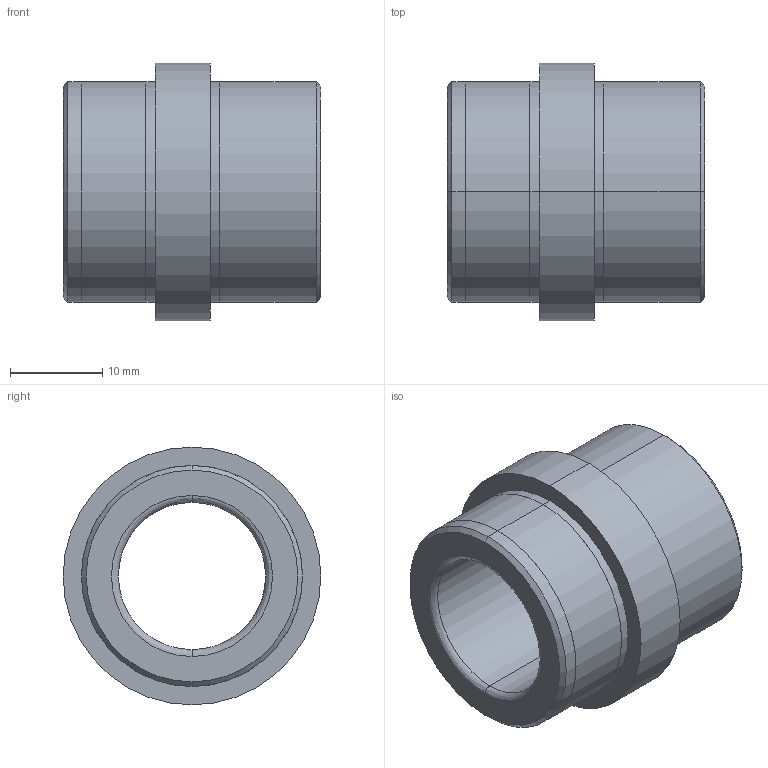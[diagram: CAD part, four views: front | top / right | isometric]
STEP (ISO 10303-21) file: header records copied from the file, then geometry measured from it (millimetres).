
FILE_DESCRIPTION( ( 'STEP AP203' ), '1' );
FILE_NAME( 'D:/Delta 3 D/D22/D22 - 16x16.step', '2002-12-31T23:12:41', ( ' ' ), ( ' ' ), 'XStep 1.0', ' ', ' ' );
FILE_SCHEMA( ( 'CONFIG_CONTROL_DESIGN' ) );
Length unit declared in the file: metre
Products named in the file (1): 1
Bounding box: 28 x 28 x 28 mm (x, y, z)
Volume: 7991.3 mm3; surface area: 4349.4 mm2
Topology: 1 solids, 1 shells, 29 faces, 58 edges, 36 vertices
Faces by surface type: revolution 18, bspline 11
Entity records: 893 total; most frequent: CARTESIAN_POINT 253, ORIENTED_EDGE 116, DIRECTION 110, EDGE_CURVE 58, AXIS2_PLACEMENT_3D 37, EDGE_LOOP 36, VERTEX_POINT 36, CIRCLE 36
